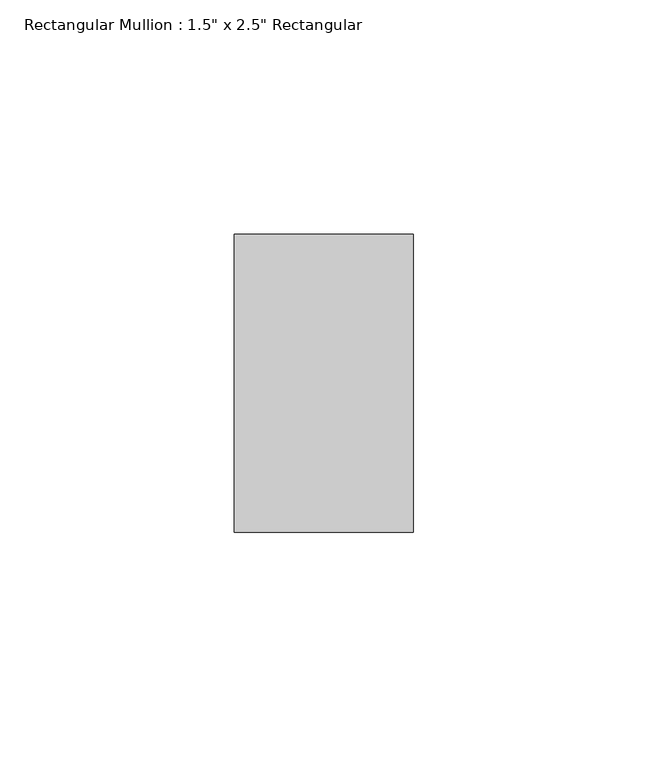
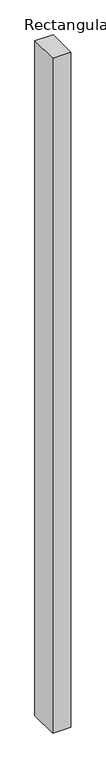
"""IFC4 building model written with IfcOpenShell, lengths in millimetres: member geometry."""

from ifc_helpers import new_model, si_unit, frame, origin, place, context, project, spatial, polyline, outline, extrude, source, transform, mapped, element, save


def member_42be4715(model_context):
    return source(origin(), model_context, "Body", "SweptSolid", [
        extrude(outline(polyline([(19.05, 31.75), (19.05, -31.75), (-19.05, -31.75), (-19.05, 31.75), (19.05, 31.75)])), frame((0.0, 0.0, -1485.9), z_axis=(0.0, 0.0, 1.0), x_axis=(1.0, 0.0, 0.0)), (0.0, 0.0, 1.0), 1485.9),
    ])


if __name__ == "__main__":
    model = new_model("IFC4")
    model_context = context("Model", 3, world=origin())
    ifc_project = project(units=[si_unit("LENGTHUNIT", "METRE", prefix="MILLI")], contexts=[model_context])
    site = spatial("IfcSite", under=ifc_project)
    building = spatial("IfcBuilding", under=site)
    placement = place(None, origin())
    member_shape = member_42be4715(model_context)
    element("IfcMember", 1, ObjectType="Rectangular Mullion : 1.5\" x 2.5\" Rectangular", at=placement, inside=building, context=model_context, shape_type="MappedRepresentation", body=[
        mapped(member_shape, transform((0.0, 0.0, 0.0), x_axis=(1.0, 0.0, 0.0), y_axis=(0.0, 1.0, 0.0), z_axis=(0.0, 0.0, 1.0))),
    ])
    save(model, "model.ifc")
